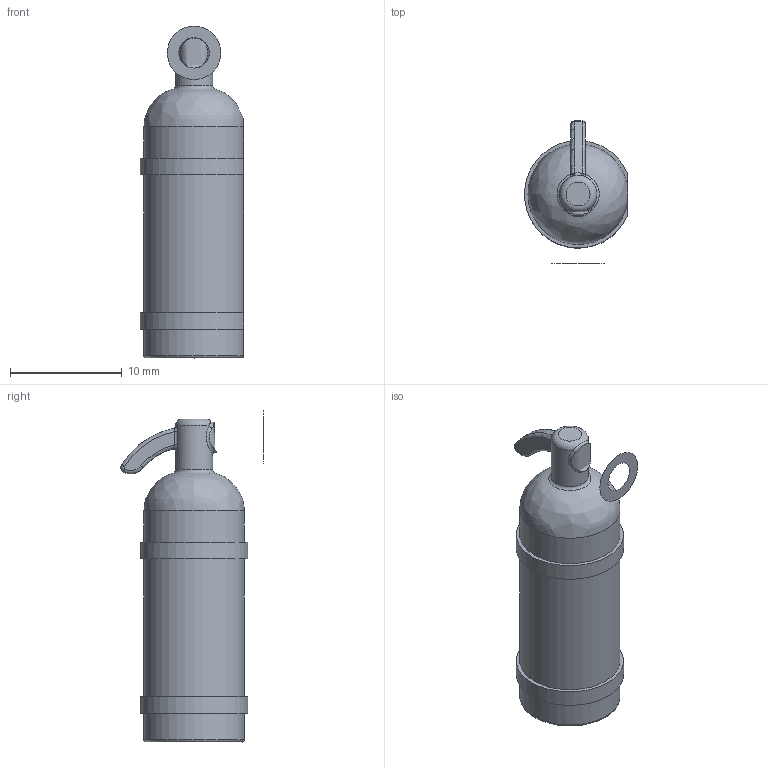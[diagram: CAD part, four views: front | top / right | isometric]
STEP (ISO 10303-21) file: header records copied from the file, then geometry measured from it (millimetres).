
FILE_DESCRIPTION(/* description */ ('','CAx-IF Rec.Pracs.---Representation and Presentation of Product Manufacturing Information (PMI)---4.0---2014-10-13'),/* implementation_level */ '2;1');
FILE_NAME(/* name */ '20vosperextinguisher.step',/* time_stamp */ '2025-03-24T17:31:10+11:00',/* author */ (''),/* organization */ (''),/* preprocessor_version */ 'ST-DEVELOPER v20',/* originating_system */ 'Autodesk Translation Framework v13.20.0.188',/* authorisation */ '');
FILE_SCHEMA (('AP242_MANAGED_MODEL_BASED_3D_ENGINEERING_MIM_LF { 1 0 10303 442 1 1 4 }'));
Length unit declared in the file: millimetre
Products named in the file (1): 20scaleVosperDeckStuff
Bounding box: 9.25 x 12.77 x 29.76 mm (x, y, z)
Volume: 1594.5 mm3; surface area: 962.7 mm2
Topology: 1 solids, 1 shells, 47 faces, 114 edges, 70 vertices
Faces by surface type: bspline 13, cylinder 13, plane 10, torus 9, cone 2
Full cylindrical faces by diameter (mm): 3.336 x1
Entity records: 1961 total; most frequent: CARTESIAN_POINT 876, ORIENTED_EDGE 228, DIRECTION 212, EDGE_CURVE 114, AXIS2_PLACEMENT_3D 92, VERTEX_POINT 70, CIRCLE 57, EDGE_LOOP 48
